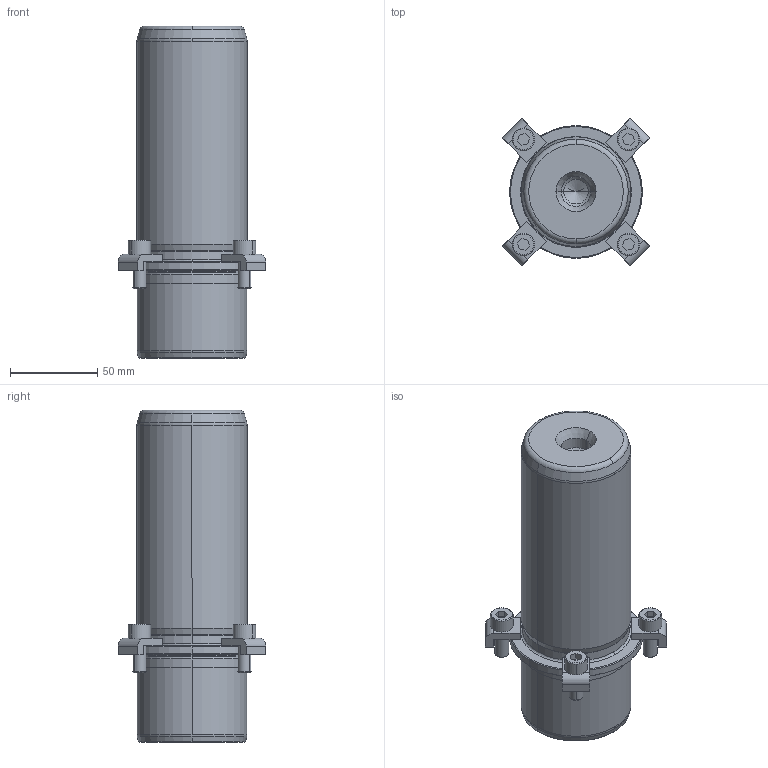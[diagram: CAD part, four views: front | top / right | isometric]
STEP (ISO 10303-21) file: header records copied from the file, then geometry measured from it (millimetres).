
FILE_DESCRIPTION((''),'2;1');
FILE_NAME('P21_063_140.stp','2008-12-23T09:20:17',(''),(''),'Mechanical Desktop 2009','Mechanical Desktop 2009',', , ');
FILE_SCHEMA(('CONFIG_CONTROL_DESIGN'));
Length unit declared in the file: millimetre
Products named in the file (2): Product; blmdl1
Assembly tree (1 placements, depth 2):
  Product
    blmdl1
Bounding box: 84.5 x 84.5 x 190 mm (x, y, z)
Volume: 591658.1 mm3; surface area: 59232.2 mm2
Topology: 9 solids, 9 shells, 195 faces, 477 edges, 309 vertices
Faces by surface type: plane 77, cylinder 52, cone 34, torus 16, bspline 16
Entity records: 6547 total; most frequent: CARTESIAN_POINT 1683, DIRECTION 1078, ORIENTED_EDGE 946, EDGE_CURVE 473, AXIS2_PLACEMENT_3D 424, VERTEX_POINT 309, CIRCLE 243, VECTOR 230
